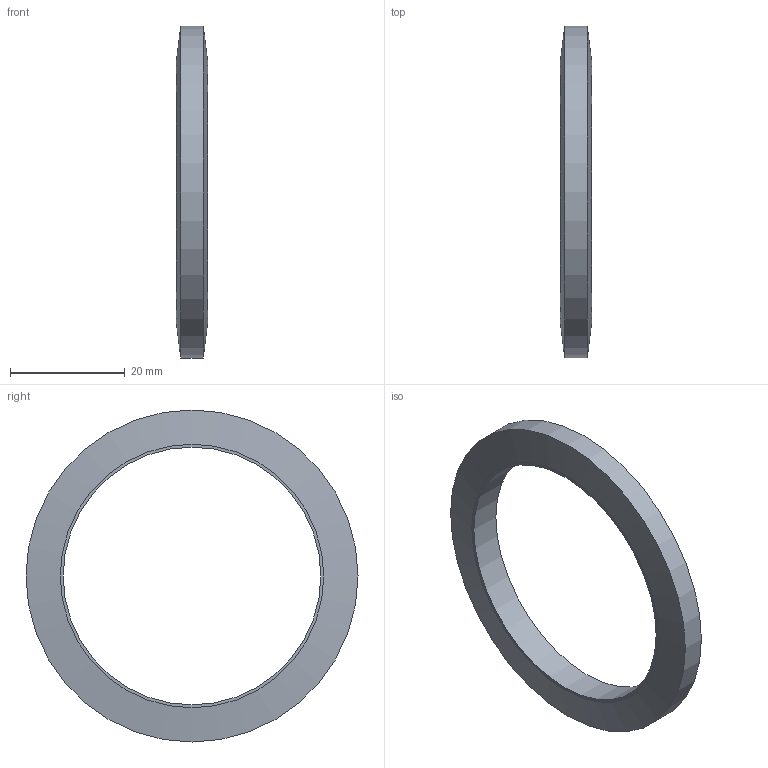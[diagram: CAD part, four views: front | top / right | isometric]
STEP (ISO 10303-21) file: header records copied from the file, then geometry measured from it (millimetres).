
FILE_DESCRIPTION(('Open CASCADE Model'),'2;1');
FILE_NAME('Open CASCADE Shape Model','2026-10-05T09:55:41',('Author'),( 'Open CASCADE'),'Open CASCADE STEP processor 7.9','Open CASCADE 7.9' ,'Unknown');
FILE_SCHEMA(('AUTOMOTIVE_DESIGN { 1 0 10303 214 1 1 1 1 }'));
Length unit declared in the file: millimetre
Products named in the file (1): Open CASCADE STEP translator 7.9 5
Bounding box: 5.44 x 57.96 x 57.96 mm (x, y, z)
Volume: 4950.8 mm3; surface area: 3601 mm2
Topology: 1 solids, 1 shells, 6 faces, 10 edges, 6 vertices
Faces by surface type: plane 2, cone 2, cylinder 2
Full cylindrical faces by diameter (mm): 45 x1, 57.96 x1
Entity records: 288 total; most frequent: DIRECTION 50, CARTESIAN_POINT 43, ORIENTED_EDGE 20, PCURVE 20, DEFINITIONAL_REPRESENTATION 20, LINE 20, VECTOR 20, AXIS2_PLACEMENT_3D 13
